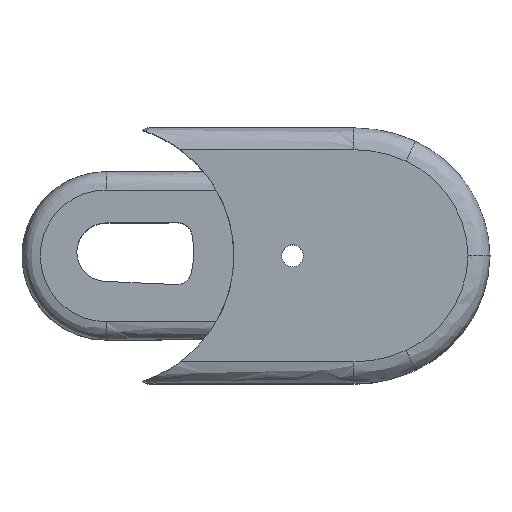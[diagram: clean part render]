
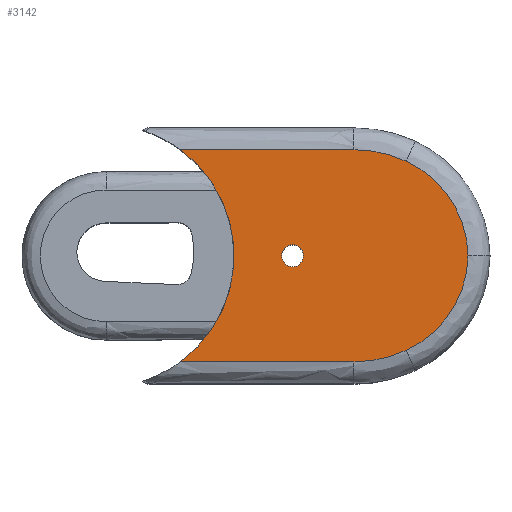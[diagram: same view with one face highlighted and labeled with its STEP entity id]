
A CAD part, top view. The second image highlights one B-rep face of the part: STEP entity #3142.
In plain terms, the highlighted free-form (B-spline) face has degree [1, 1] with [2, 2] control points.
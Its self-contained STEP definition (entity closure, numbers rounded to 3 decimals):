
#49=CARTESIAN_POINT('',(20.964,-5.72,31.1));
#50=VERTEX_POINT('',#49);
#51=CARTESIAN_POINT('',(22.464,-5.72,31.1));
#52=DIRECTION('',(0.0,0.0,1.0));
#53=DIRECTION('',(-1.0,0.0,0.0));
#54=AXIS2_PLACEMENT_3D('',#51,#52,#53);
#55=CIRCLE('',#54,1.5);
#56=EDGE_CURVE('',#50,#50,#55,.T.);
#2373=CARTESIAN_POINT('',(30.864,-20.22,31.1));
#2374=VERTEX_POINT('',#2373);
#2382=CARTESIAN_POINT('',(7.129,-20.22,31.1));
#2383=VERTEX_POINT('',#2382);
#2384=CARTESIAN_POINT('',(7.129,-20.22,31.1));
#2385=DIRECTION('',(1.0,0.0,0.0));
#2386=VECTOR('',#2385,23.735);
#2387=LINE('',#2384,#2386);
#2388=EDGE_CURVE('',#2383,#2374,#2387,.T.);
#2832=CARTESIAN_POINT('',(37.993,-18.653,31.1));
#2833=VERTEX_POINT('',#2832);
#2849=CARTESIAN_POINT('',(30.864,-3.22,31.1));
#2850=DIRECTION('',(0.,0.,1.0));
#2851=DIRECTION('',(0.215,-0.977,0.));
#2852=AXIS2_PLACEMENT_3D('',#2849,#2850,#2851);
#2853=CIRCLE('',#2852,17.0);
#2854=EDGE_CURVE('',#2374,#2833,#2853,.T.);
#2888=CARTESIAN_POINT('',(46.464,-5.72,31.1));
#2889=VERTEX_POINT('',#2888);
#2890=CARTESIAN_POINT('',(31.966,-5.465,31.1));
#2891=DIRECTION('',(0.,0.,1.0));
#2892=DIRECTION('',(0.837,-0.546,0.));
#2893=AXIS2_PLACEMENT_3D('',#2890,#2891,#2892);
#2894=CIRCLE('',#2893,14.5);
#2895=EDGE_CURVE('',#2833,#2889,#2894,.T.);
#2954=CARTESIAN_POINT('',(37.993,7.213,31.1));
#2955=VERTEX_POINT('',#2954);
#2956=CARTESIAN_POINT('',(31.966,-5.975,31.1));
#2957=DIRECTION('',(0.,0.,1.0));
#2958=DIRECTION('',(0.837,0.546,0.));
#2959=AXIS2_PLACEMENT_3D('',#2956,#2957,#2958);
#2960=CIRCLE('',#2959,14.5);
#2961=EDGE_CURVE('',#2889,#2955,#2960,.T.);
#3027=CARTESIAN_POINT('',(7.129,8.78,31.1));
#3028=VERTEX_POINT('',#3027);
#3045=CARTESIAN_POINT('',(30.864,8.78,31.1));
#3046=VERTEX_POINT('',#3045);
#3047=CARTESIAN_POINT('',(30.864,8.78,31.1));
#3048=DIRECTION('',(-1.0,0.0,0.0));
#3049=VECTOR('',#3048,23.735);
#3050=LINE('',#3047,#3049);
#3051=EDGE_CURVE('',#3046,#3028,#3050,.T.);
#3100=CARTESIAN_POINT('',(30.864,-8.22,31.1));
#3101=DIRECTION('',(0.,0.,1.));
#3102=DIRECTION('',(0.215,0.977,0.));
#3103=AXIS2_PLACEMENT_3D('',#3100,#3101,#3102);
#3104=CIRCLE('',#3103,17.);
#3105=EDGE_CURVE('',#2955,#3046,#3104,.T.);
#3119=CARTESIAN_POINT('',(7.129,8.78,31.1));
#3120=CARTESIAN_POINT('',(46.464,8.78,31.1));
#3121=CARTESIAN_POINT('',(7.129,-20.22,31.1));
#3122=CARTESIAN_POINT('',(46.464,-20.22,31.1));
#3123=B_SPLINE_SURFACE_WITH_KNOTS('',1,1,((#3119,#3121),(#3120,#3122)),.UNSPECIFIED.,.F.,.F.,.U.,(2,2),(2,2),(0.0,39.334),(0.0,29.0),.UNSPECIFIED.);
#3124=ORIENTED_EDGE('',*,*,#3051,.T.);
#3125=CARTESIAN_POINT('',(-3.536,-5.72,31.1));
#3126=DIRECTION('',(0.,0.,-1.));
#3127=DIRECTION('',(-0.306,0.952,0.));
#3128=AXIS2_PLACEMENT_3D('',#3125,#3126,#3127);
#3129=CIRCLE('',#3128,18.);
#3130=EDGE_CURVE('',#3028,#2383,#3129,.T.);
#3131=ORIENTED_EDGE('',*,*,#3130,.T.);
#3132=ORIENTED_EDGE('',*,*,#2388,.T.);
#3133=ORIENTED_EDGE('',*,*,#2854,.T.);
#3134=ORIENTED_EDGE('',*,*,#2895,.T.);
#3135=ORIENTED_EDGE('',*,*,#2961,.T.);
#3136=ORIENTED_EDGE('',*,*,#3105,.T.);
#3137=EDGE_LOOP('',(#3124,#3131,#3132,#3133,#3134,#3135,#3136));
#3138=FACE_OUTER_BOUND('',#3137,.T.);
#3139=ORIENTED_EDGE('',*,*,#56,.F.);
#3140=EDGE_LOOP('',(#3139));
#3141=FACE_BOUND('',#3140,.T.);
#3142=ADVANCED_FACE('',(#3138,#3141),#3123,.F.);
